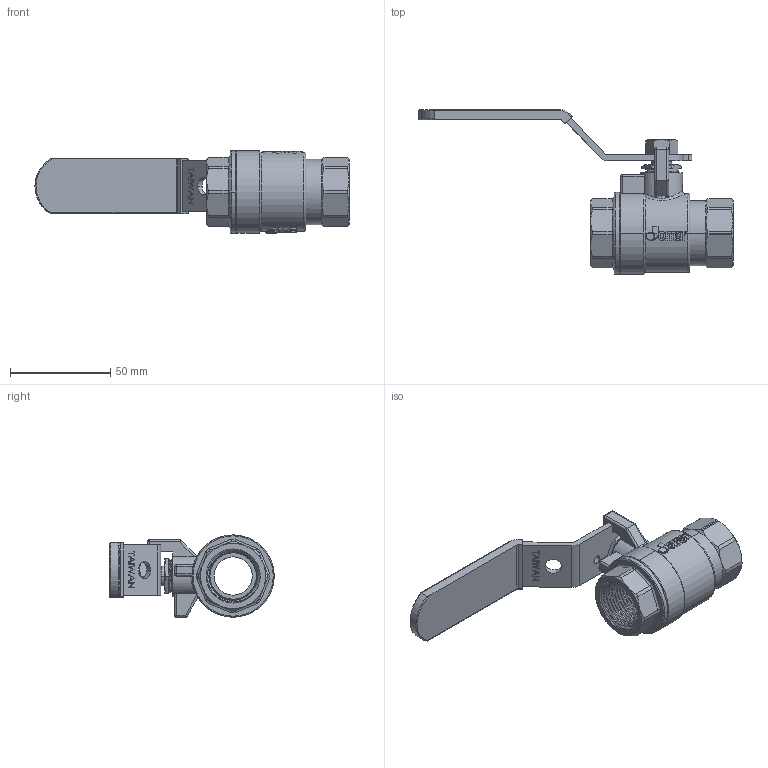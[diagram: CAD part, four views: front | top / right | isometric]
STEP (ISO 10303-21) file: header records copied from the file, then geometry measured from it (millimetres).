
FILE_DESCRIPTION (( 'STEP AP203' ), '1' );
FILE_NAME ('ABL704-無鉛無掛鎖-0.75''''JOMAR球閥體-牙口組合-無鉛無插溝-2025.STEP', '2025-06-25T06:33:40', ( '' ), ( '' ), 'SwSTEP 2.0', 'SolidWorks 2018', '' );
FILE_SCHEMA (( 'CONFIG_CONTROL_DESIGN' ));
Length unit declared in the file: millimetre
Products named in the file (13): CBL235-20230914改; TBL264A; BBL704-0.75''''JOMAR球閥體-無鉛無插溝; NBL265; EBL104; EBL205B; CBL215-白色膠套-T-200CSSG; ABL704-無鉛無掛鎖-0.75''''JOMAR球閥體-牙口組合-無鉛無插溝-2025; RBL264; DN20-CBL704-HANDLE & SLEEVE 組合(白色T膠套); BBL704A-0.75''''JOMAR球閥八角頭-無鉛無插溝; GBL205 (組裝); EBL205A
Assembly tree (13 placements, depth 3):
  ABL704-無鉛無掛鎖-0.75''''JOMAR球閥體-牙口組合-無鉛無插溝-2025
    BBL704-0.75''''JOMAR球閥體-無鉛無插溝
    RBL264
    EBL205A
    EBL205B
    GBL205 (組裝)
    TBL264A
    BBL704A-0.75''''JOMAR球閥八角頭-無鉛無插溝
    EBL104  x2
    NBL265
    DN20-CBL704-HANDLE & SLEEVE 組合(白色T膠套)
      CBL235-20230914改
      CBL215-白色膠套-T-200CSSG
Bounding box: 156.6 x 82.01 x 41 mm (x, y, z)
Volume: 65853.3 mm3; surface area: 53308.2 mm2
Topology: 12 solids, 12 shells, 2266 faces, 6052 edges, 3984 vertices
Faces by surface type: plane 1189, bspline 644, cylinder 262, cone 128, torus 29, sphere 14
Entity records: 118678 total; most frequent: CARTESIAN_POINT 66151, ORIENTED_EDGE 12032, DIRECTION 8027, EDGE_CURVE 6016, VERTEX_POINT 3966, LINE 3713, VECTOR 3713, EDGE_LOOP 2460
